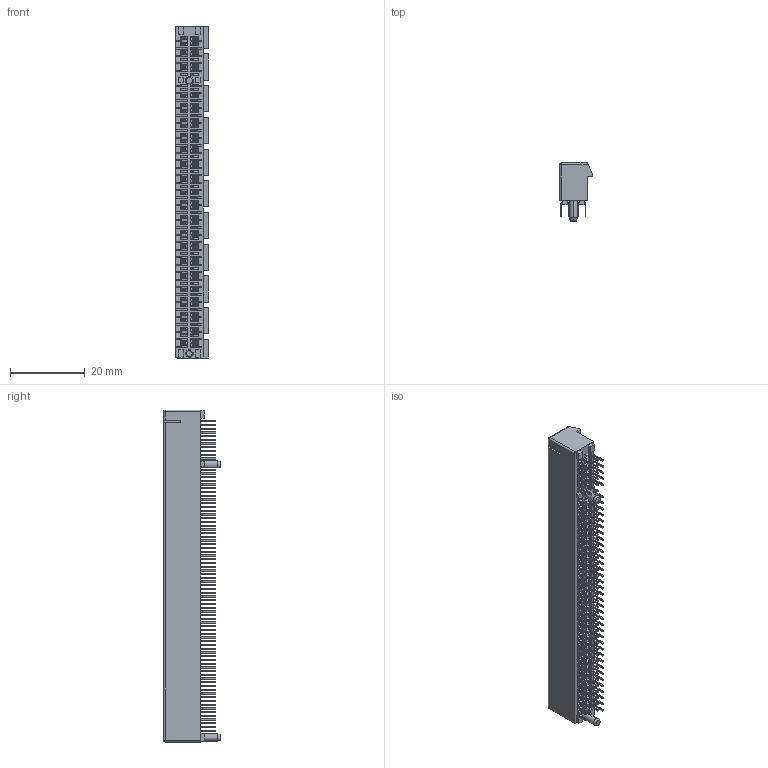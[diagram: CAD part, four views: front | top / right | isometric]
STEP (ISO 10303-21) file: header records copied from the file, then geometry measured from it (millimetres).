
FILE_DESCRIPTION (( 'STEP AP203' ), '1' );
FILE_NAME ('TE PCIe Express x16 (3.1mm Pins).STEP', '2015-01-12T00:35:06', ( '' ), ( '' ), 'SwSTEP 2.0', 'SolidWorks 2013', '' );
FILE_SCHEMA (( 'CONFIG_CONTROL_DESIGN' ));
Length unit declared in the file: millimetre
Products named in the file (4): PCIe Body_PCIe x16; Pins_Internal Pin (Long); Pins_External Pin (Long); TE PCIe Express x16 (3.1mm Pins)
Assembly tree (165 placements, depth 2):
  TE PCIe Express x16 (3.1mm Pins)
    PCIe Body_PCIe x16
    Pins_Internal Pin (Long)  x82
    Pins_External Pin (Long)  x82
Bounding box: 8.8 x 15.4 x 89 mm (x, y, z)
Volume: 4380.5 mm3; surface area: 13753.4 mm2
Topology: 165 solids, 165 shells, 5870 faces, 17537 edges, 11677 vertices
Faces by surface type: plane 3886, cylinder 1978, cone 4, sphere 2
Entity records: 68529 total; most frequent: ORIENTED_EDGE 11742, CARTESIAN_POINT 11614, DIRECTION 9589, EDGE_CURVE 5871, LINE 5797, VECTOR 5797, VERTEX_POINT 3901, EDGE_LOOP 1996
